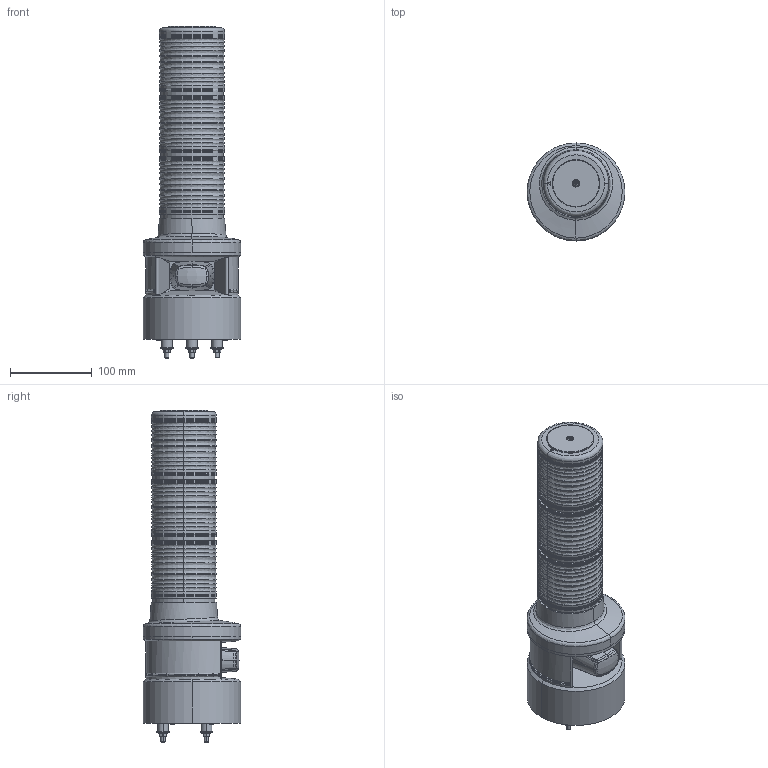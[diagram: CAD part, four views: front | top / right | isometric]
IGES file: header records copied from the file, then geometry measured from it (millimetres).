
Start section: IGES file generated by C3D Converter 1.6 translator by C3D Labs., translator version IGESOUT-5.1.
Global section: file name: C:\Users\Ìîíî\OneDrive\Desktop\øòóêè\Êóëåð TFL100B\TLF100B-RGB.igs; preprocessor: 1.0; author: Ìîíî; organization: unknown; date: -17760631:211951; units: millimetre
Bounding box: 120 x 120 x 406.95 mm (x, y, z)
Volume: 1586598.1 mm3; surface area: 266636.1 mm2
Topology: 31 solids, 31 shells, 898 faces, 2053 edges, 1233 vertices
Faces by surface type: revolution 538, bspline 356, extrusion 4
